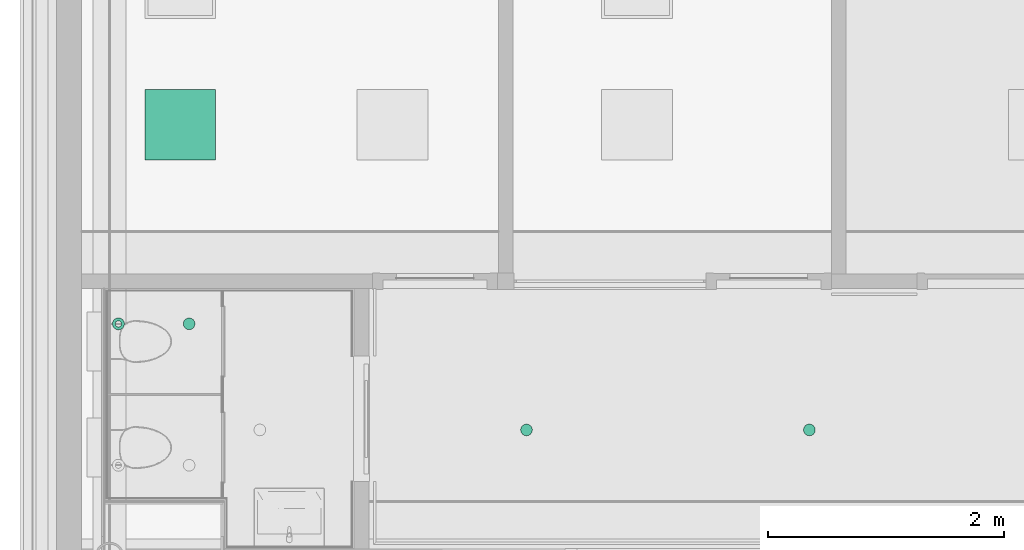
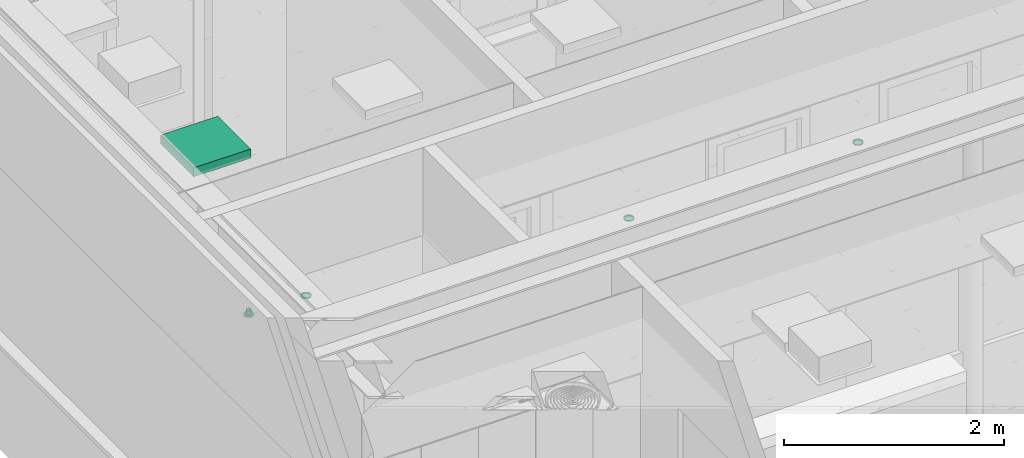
# One storey, part 195 of 347: 5 flow terminals.
"""IFC2X3 building model written with IfcOpenShell, lengths in millimetres."""

from ifc_helpers import new_model, entity, si_unit, converted_unit, derived_unit, money_unit, direction, frame, origin_with_axes, place, context, subcontext, project, spatial, open_shell, faceted_brep, surface_model, source, transform, mapped, type_object, type_shapes, element, save


model = new_model("IFC2X3")

# Units and contexts
model_context = context("Model", 3, precision=0.01, world=origin_with_axes(), true_north=direction((0.0, 1.0)))
plan_context = context("Plan", 3, precision=0.01, world=origin_with_axes(), true_north=direction((0.0, 1.0)))
body_context = subcontext(model_context, "Body", "Model", "MODEL_VIEW")
ifc_project = project(units=[si_unit("LENGTHUNIT", "METRE", prefix="MILLI"), si_unit("AREAUNIT", "SQUARE_METRE"), si_unit("VOLUMEUNIT", "CUBIC_METRE"), converted_unit("PLANEANGLEUNIT", "DEGREE", entity("IfcPlaneAngleMeasure", 0.0174532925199), si_unit("PLANEANGLEUNIT", "RADIAN"), dimensions=[0, 0, 0, 0, 0, 0, 0]), money_unit("EUR"), converted_unit("TIMEUNIT", "Year", entity("IfcTimeMeasure", 31556926.0), si_unit("TIMEUNIT", "SECOND"), dimensions=[0, 0, 1, 0, 0, 0, 0]), si_unit("MASSUNIT", "GRAM", prefix="KILO"), si_unit("THERMODYNAMICTEMPERATUREUNIT", "DEGREE_CELSIUS"), si_unit("LUMINOUSINTENSITYUNIT", "LUMEN"), si_unit("ENERGYUNIT", "JOULE", prefix="MEGA"), derived_unit("THERMALCONDUCTANCEUNIT", [(si_unit("POWERUNIT", "WATT"), 1), (si_unit("LENGTHUNIT", "METRE"), -1), (si_unit("THERMODYNAMICTEMPERATUREUNIT", "KELVIN"), -1)]), derived_unit("SPECIFICHEATCAPACITYUNIT", [(si_unit("ENERGYUNIT", "JOULE"), 1), (si_unit("MASSUNIT", "GRAM", prefix="KILO"), -1), (si_unit("THERMODYNAMICTEMPERATUREUNIT", "KELVIN"), -1)]), derived_unit("MASSDENSITYUNIT", [(si_unit("MASSUNIT", "GRAM", prefix="KILO"), 1), (si_unit("VOLUMEUNIT", "CUBIC_METRE"), -1)])], contexts=[model_context, plan_context])

# Site, building, storey
site_placement = place(None, origin_with_axes())
site = spatial("IfcSite", under=ifc_project, at=site_placement, Name="Site", CompositionType="ELEMENT")
building_placement = place(site_placement, origin_with_axes())
building = spatial("IfcBuilding", under=site, at=building_placement, Name="Naam gebouw", CompositionType="ELEMENT")
storey_placement = place(building_placement, origin_with_axes())
storey = spatial("IfcBuildingStorey", under=building, at=storey_placement, Name="begane grond", CompositionType="ELEMENT", Elevation=0.0)

# Flow terminals
lamp_type_1 = type_object("IfcLampType", Name="Spot plafond 01 25", PredefinedType="NOTDEFINED")
shared_shape_1 = source(origin_with_axes(), body_context, "Body", "SurfaceModel", [
    faceted_brep([(50.0, 0.0, -10.0), (46.1939766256, 19.1341716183, -10.0), (46.1939766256, 19.1341716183, 0.0), (50.0, 0.0, 0.0), (46.1939766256, -19.1341716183, -10.0), (35.3553390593, -35.3553390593, -10.0), (19.1341716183, -46.1939766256, -10.0), (0.0, -50.0, -10.0), (-19.1341716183, -46.1939766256, -10.0), (-35.3553390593, -35.3553390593, -10.0), (-46.1939766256, -19.1341716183, -10.0), (-50.0, 0.0, -10.0), (-46.1939766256, 19.1341716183, -10.0), (-35.3553390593, 35.3553390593, -10.0), (-19.1341716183, 46.1939766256, -10.0), (0.0, 50.0, -10.0), (19.1341716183, 46.1939766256, -10.0), (35.3553390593, 35.3553390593, -10.0), (40.0, 0.0, -10.0), (36.9551813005, 15.3073372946, -10.0), (28.2842712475, 28.2842712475, -10.0), (15.3073372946, 36.9551813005, -10.0), (0.0, 40.0, -10.0), (-15.3073372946, 36.9551813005, -10.0), (-28.2842712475, 28.2842712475, -10.0), (-36.9551813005, 15.3073372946, -10.0), (-40.0, 0.0, -10.0), (-36.9551813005, -15.3073372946, -10.0), (-28.2842712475, -28.2842712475, -10.0), (-15.3073372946, -36.9551813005, -10.0), (0.0, -40.0, -10.0), (15.3073372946, -36.9551813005, -10.0), (28.2842712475, -28.2842712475, -10.0), (36.9551813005, -15.3073372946, -10.0), (35.3553390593, 35.3553390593, 0.0), (19.1341716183, 46.1939766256, 0.0), (0.0, 50.0, 0.0), (-19.1341716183, 46.1939766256, 0.0), (-35.3553390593, 35.3553390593, 0.0), (-46.1939766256, 19.1341716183, 0.0), (-50.0, 0.0, 0.0), (-46.1939766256, -19.1341716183, 0.0), (-35.3553390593, -35.3553390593, 0.0), (-19.1341716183, -46.1939766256, 0.0), (0.0, -50.0, 0.0), (19.1341716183, -46.1939766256, 0.0), (35.3553390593, -35.3553390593, 0.0), (46.1939766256, -19.1341716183, 0.0), (40.0, 0.0, 0.0), (36.9551813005, -15.3073372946, 0.0), (28.2842712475, -28.2842712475, 0.0), (15.3073372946, -36.9551813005, 0.0), (0.0, -40.0, 0.0), (-15.3073372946, -36.9551813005, 0.0), (-28.2842712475, -28.2842712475, 0.0), (-36.9551813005, -15.3073372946, 0.0), (-40.0, 0.0, 0.0), (-36.9551813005, 15.3073372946, 0.0), (-28.2842712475, 28.2842712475, 0.0), (-15.3073372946, 36.9551813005, 0.0), (0.0, 40.0, 0.0), (15.3073372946, 36.9551813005, 0.0), (28.2842712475, 28.2842712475, 0.0), (36.9551813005, 15.3073372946, 0.0)], [[[0, 1, 2, 3]], [[0, 4, 5, 6, 7, 8, 9, 10, 11, 12, 13, 14, 15, 16, 17, 1], [18, 19, 20, 21, 22, 23, 24, 25, 26, 27, 28, 29, 30, 31, 32, 33]], [[1, 17, 34, 2]], [[3, 2, 34, 35, 36, 37, 38, 39, 40, 41, 42, 43, 44, 45, 46, 47], [48, 49, 50, 51, 52, 53, 54, 55, 56, 57, 58, 59, 60, 61, 62, 63]], [[4, 0, 3, 47]], [[5, 4, 47, 46]], [[6, 5, 46, 45]], [[7, 6, 45, 44]], [[8, 7, 44, 43]], [[9, 8, 43, 42]], [[10, 9, 42, 41]], [[11, 10, 41, 40]], [[12, 11, 40, 39]], [[13, 12, 39, 38]], [[14, 13, 38, 37]], [[15, 14, 37, 36]], [[16, 15, 36, 35]], [[17, 16, 35, 34]], [[19, 18, 48, 63]], [[20, 19, 63, 62]], [[21, 20, 62, 61]], [[22, 21, 61, 60]], [[23, 22, 60, 59]], [[24, 23, 59, 58]], [[25, 24, 58, 57]], [[26, 25, 57, 56]], [[27, 26, 56, 55]], [[28, 27, 55, 54]], [[29, 28, 54, 53]], [[30, 29, 53, 52]], [[31, 30, 52, 51]], [[32, 31, 51, 50]], [[33, 32, 50, 49]], [[18, 33, 49, 48]]]),
    surface_model("IfcShellBasedSurfaceModel", [(40.0, 0.0, -8.9), (36.9551813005, -15.3073372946, -8.9), (28.2842712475, -28.2842712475, -8.9), (15.3073372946, -36.9551813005, -8.9), (0.0, -40.0, -8.9), (-15.3073372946, -36.9551813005, -8.9), (-28.2842712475, -28.2842712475, -8.9), (-36.9551813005, -15.3073372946, -8.9), (-40.0, 0.0, -8.9), (-36.9551813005, 15.3073372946, -8.9), (-28.2842712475, 28.2842712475, -8.9), (-15.3073372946, 36.9551813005, -8.9), (0.0, 40.0, -8.9), (15.3073372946, 36.9551813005, -8.9), (28.2842712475, 28.2842712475, -8.9), (36.9551813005, 15.3073372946, -8.9)], [open_shell([[[0, 1, 2, 3, 4, 5, 6, 7, 8, 9, 10, 11, 12, 13, 14, 15]]])]),
])
type_shapes(lamp_type_1, [shared_shape_1])
for number, where, z_axis, x_axis, name in (
    (1, (11237.5, 13200.0, 3000.0), (0.0, 0.0, 1.0), (1.0, 0.0, 0.0), "63_Lamp-x"),
    (2, (8837.5, 13200.0, 3000.0), (0.0, 0.0, 1.0), (1.0, 0.0, 0.0), "63_Lamp-x"),
    (3, (5975.00002634, 14100.0, 2600.0), (0.0, 0.0, 1.0), (1.0, 0.0, 0.0), "63_Lamp-x"),
):
    element("IfcFlowTerminal", number, at=place(storey_placement, frame(where, z_axis=z_axis, x_axis=x_axis)), inside=storey, type_object=lamp_type_1, Name=name, ObjectType="Lamp", context=body_context, shape_type="MappedRepresentation", body=[
        mapped(shared_shape_1, transform((0.0, 0.0, 0.0))),
    ])
lamp_type_2 = type_object("IfcLampType", Name="TL plafond 25", PredefinedType="NOTDEFINED")
shared_shape_2 = source(origin_with_axes(), body_context, "Body", "SurfaceModel", [
    faceted_brep([(0.0, 0.0, -100.0), (600.0, 0.0, -100.0), (600.0, 0.0, 0.0), (0.0, 0.0, 0.0), (0.0, 600.0, -100.0), (600.0, 600.0, -100.0), (40.0, 40.0, -100.0), (560.0, 40.0, -100.0), (560.0, 560.0, -100.0), (40.0, 560.0, -100.0), (600.0, 600.0, 0.0), (0.0, 600.0, 0.0), (40.0, 40.0, 0.0), (40.0, 560.0, 0.0), (560.0, 560.0, 0.0), (560.0, 40.0, 0.0)], [[[0, 1, 2, 3]], [[0, 4, 5, 1], [6, 7, 8, 9]], [[1, 5, 10, 2]], [[3, 2, 10, 11], [12, 13, 14, 15]], [[4, 0, 3, 11]], [[5, 4, 11, 10]], [[7, 6, 12, 15]], [[8, 7, 15, 14]], [[9, 8, 14, 13]], [[6, 9, 13, 12]]]),
    faceted_brep([(40.0, 40.0, -16.3333333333), (560.0, 40.0, -16.3333333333), (560.0, 40.0, 0.0), (40.0, 40.0, 0.0), (40.0, 560.0, -16.3333333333), (560.0, 560.0, -16.3333333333), (560.0, 560.0, 0.0), (40.0, 560.0, 0.0)], [[[0, 1, 2, 3]], [[0, 4, 5, 1]], [[1, 5, 6, 2]], [[3, 2, 6, 7]], [[4, 0, 3, 7]], [[5, 4, 7, 6]]]),
    surface_model("IfcShellBasedSurfaceModel", [(559.0, 41.0, -100.0), (40.0, 41.0, -100.0), (40.0, 559.0, -100.0), (559.0, 559.0, -100.0)], [open_shell([[[0, 1, 2, 3]]])]),
    faceted_brep([(40.0, 40.0, -100.0), (560.0, 40.0, -100.0), (560.0, 40.0, -60.0), (40.0, 40.0, -60.0), (40.0, 560.0, -100.0), (560.0, 560.0, -100.0), (41.0, 41.0, -100.0), (559.0, 41.0, -100.0), (559.0, 559.0, -100.0), (41.0, 559.0, -100.0), (560.0, 560.0, -60.0), (40.0, 560.0, -60.0), (41.0, 41.0, -60.0), (41.0, 559.0, -60.0), (559.0, 559.0, -60.0), (559.0, 41.0, -60.0)], [[[0, 1, 2, 3]], [[0, 4, 5, 1], [6, 7, 8, 9]], [[1, 5, 10, 2]], [[3, 2, 10, 11], [12, 13, 14, 15]], [[4, 0, 3, 11]], [[5, 4, 11, 10]], [[7, 6, 12, 15]], [[8, 7, 15, 14]], [[9, 8, 14, 13]], [[6, 9, 13, 12]]]),
    faceted_brep([(40.0, 144.0, -48.3333333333), (40.0, 149.740251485, -47.191526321), (560.0, 149.740251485, -47.191526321), (560.0, 144.0, -48.3333333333), (40.0, 138.259748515, -47.191526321), (40.0, 133.393398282, -43.9399350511), (40.0, 130.141807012, -39.0735848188), (40.0, 129.0, -33.3333333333), (40.0, 130.141807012, -27.5930818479), (40.0, 133.393398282, -22.7267316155), (40.0, 138.259748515, -19.4751403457), (40.0, 144.0, -18.3333333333), (40.0, 149.740251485, -19.4751403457), (40.0, 154.606601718, -22.7267316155), (40.0, 157.858192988, -27.5930818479), (40.0, 159.0, -33.3333333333), (40.0, 157.858192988, -39.0735848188), (40.0, 154.606601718, -43.9399350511), (40.0, 144.0, -46.3333333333), (40.0, 148.974884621, -45.343767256), (40.0, 153.192388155, -42.5257214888), (40.0, 156.010433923, -38.3082179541), (40.0, 157.0, -33.3333333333), (40.0, 156.010433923, -28.3584487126), (40.0, 153.192388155, -24.1409451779), (40.0, 148.974884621, -21.3228994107), (40.0, 144.0, -20.3333333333), (40.0, 139.025115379, -21.3228994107), (40.0, 134.807611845, -24.1409451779), (40.0, 131.989566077, -28.3584487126), (40.0, 131.0, -33.3333333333), (40.0, 131.989566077, -38.3082179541), (40.0, 134.807611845, -42.5257214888), (40.0, 139.025115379, -45.343767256), (560.0, 154.606601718, -43.9399350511), (560.0, 157.858192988, -39.0735848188), (560.0, 159.0, -33.3333333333), (560.0, 157.858192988, -27.5930818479), (560.0, 154.606601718, -22.7267316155), (560.0, 149.740251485, -19.4751403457), (560.0, 144.0, -18.3333333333), (560.0, 138.259748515, -19.4751403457), (560.0, 133.393398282, -22.7267316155), (560.0, 130.141807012, -27.5930818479), (560.0, 129.0, -33.3333333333), (560.0, 130.141807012, -39.0735848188), (560.0, 133.393398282, -43.9399350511), (560.0, 138.259748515, -47.191526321), (560.0, 144.0, -46.3333333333), (560.0, 139.025115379, -45.343767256), (560.0, 134.807611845, -42.5257214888), (560.0, 131.989566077, -38.3082179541), (560.0, 131.0, -33.3333333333), (560.0, 131.989566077, -28.3584487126), (560.0, 134.807611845, -24.1409451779), (560.0, 139.025115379, -21.3228994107), (560.0, 144.0, -20.3333333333), (560.0, 148.974884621, -21.3228994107), (560.0, 153.192388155, -24.1409451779), (560.0, 156.010433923, -28.3584487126), (560.0, 157.0, -33.3333333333), (560.0, 156.010433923, -38.3082179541), (560.0, 153.192388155, -42.5257214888), (560.0, 148.974884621, -45.343767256)], [[[0, 1, 2, 3]], [[0, 4, 5, 6, 7, 8, 9, 10, 11, 12, 13, 14, 15, 16, 17, 1], [18, 19, 20, 21, 22, 23, 24, 25, 26, 27, 28, 29, 30, 31, 32, 33]], [[1, 17, 34, 2]], [[3, 2, 34, 35, 36, 37, 38, 39, 40, 41, 42, 43, 44, 45, 46, 47], [48, 49, 50, 51, 52, 53, 54, 55, 56, 57, 58, 59, 60, 61, 62, 63]], [[4, 0, 3, 47]], [[5, 4, 47, 46]], [[6, 5, 46, 45]], [[7, 6, 45, 44]], [[8, 7, 44, 43]], [[9, 8, 43, 42]], [[10, 9, 42, 41]], [[11, 10, 41, 40]], [[12, 11, 40, 39]], [[13, 12, 39, 38]], [[14, 13, 38, 37]], [[15, 14, 37, 36]], [[16, 15, 36, 35]], [[17, 16, 35, 34]], [[19, 18, 48, 63]], [[20, 19, 63, 62]], [[21, 20, 62, 61]], [[22, 21, 61, 60]], [[23, 22, 60, 59]], [[24, 23, 59, 58]], [[25, 24, 58, 57]], [[26, 25, 57, 56]], [[27, 26, 56, 55]], [[28, 27, 55, 54]], [[29, 28, 54, 53]], [[30, 29, 53, 52]], [[31, 30, 52, 51]], [[32, 31, 51, 50]], [[33, 32, 50, 49]], [[18, 33, 49, 48]]]),
    faceted_brep([(40.0, 248.0, -48.3333333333), (40.0, 253.740251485, -47.191526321), (560.0, 253.740251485, -47.191526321), (560.0, 248.0, -48.3333333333), (40.0, 242.259748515, -47.191526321), (40.0, 237.393398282, -43.9399350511), (40.0, 234.141807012, -39.0735848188), (40.0, 233.0, -33.3333333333), (40.0, 234.141807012, -27.5930818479), (40.0, 237.393398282, -22.7267316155), (40.0, 242.259748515, -19.4751403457), (40.0, 248.0, -18.3333333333), (40.0, 253.740251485, -19.4751403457), (40.0, 258.606601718, -22.7267316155), (40.0, 261.858192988, -27.5930818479), (40.0, 263.0, -33.3333333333), (40.0, 261.858192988, -39.0735848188), (40.0, 258.606601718, -43.9399350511), (40.0, 248.0, -46.3333333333), (40.0, 252.974884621, -45.343767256), (40.0, 257.192388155, -42.5257214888), (40.0, 260.010433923, -38.3082179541), (40.0, 261.0, -33.3333333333), (40.0, 260.010433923, -28.3584487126), (40.0, 257.192388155, -24.1409451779), (40.0, 252.974884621, -21.3228994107), (40.0, 248.0, -20.3333333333), (40.0, 243.025115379, -21.3228994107), (40.0, 238.807611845, -24.1409451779), (40.0, 235.989566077, -28.3584487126), (40.0, 235.0, -33.3333333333), (40.0, 235.989566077, -38.3082179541), (40.0, 238.807611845, -42.5257214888), (40.0, 243.025115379, -45.343767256), (560.0, 258.606601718, -43.9399350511), (560.0, 261.858192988, -39.0735848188), (560.0, 263.0, -33.3333333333), (560.0, 261.858192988, -27.5930818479), (560.0, 258.606601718, -22.7267316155), (560.0, 253.740251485, -19.4751403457), (560.0, 248.0, -18.3333333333), (560.0, 242.259748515, -19.4751403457), (560.0, 237.393398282, -22.7267316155), (560.0, 234.141807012, -27.5930818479), (560.0, 233.0, -33.3333333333), (560.0, 234.141807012, -39.0735848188), (560.0, 237.393398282, -43.9399350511), (560.0, 242.259748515, -47.191526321), (560.0, 248.0, -46.3333333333), (560.0, 243.025115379, -45.343767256), (560.0, 238.807611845, -42.5257214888), (560.0, 235.989566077, -38.3082179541), (560.0, 235.0, -33.3333333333), (560.0, 235.989566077, -28.3584487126), (560.0, 238.807611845, -24.1409451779), (560.0, 243.025115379, -21.3228994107), (560.0, 248.0, -20.3333333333), (560.0, 252.974884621, -21.3228994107), (560.0, 257.192388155, -24.1409451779), (560.0, 260.010433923, -28.3584487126), (560.0, 261.0, -33.3333333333), (560.0, 260.010433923, -38.3082179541), (560.0, 257.192388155, -42.5257214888), (560.0, 252.974884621, -45.343767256)], [[[0, 1, 2, 3]], [[0, 4, 5, 6, 7, 8, 9, 10, 11, 12, 13, 14, 15, 16, 17, 1], [18, 19, 20, 21, 22, 23, 24, 25, 26, 27, 28, 29, 30, 31, 32, 33]], [[1, 17, 34, 2]], [[3, 2, 34, 35, 36, 37, 38, 39, 40, 41, 42, 43, 44, 45, 46, 47], [48, 49, 50, 51, 52, 53, 54, 55, 56, 57, 58, 59, 60, 61, 62, 63]], [[4, 0, 3, 47]], [[5, 4, 47, 46]], [[6, 5, 46, 45]], [[7, 6, 45, 44]], [[8, 7, 44, 43]], [[9, 8, 43, 42]], [[10, 9, 42, 41]], [[11, 10, 41, 40]], [[12, 11, 40, 39]], [[13, 12, 39, 38]], [[14, 13, 38, 37]], [[15, 14, 37, 36]], [[16, 15, 36, 35]], [[17, 16, 35, 34]], [[19, 18, 48, 63]], [[20, 19, 63, 62]], [[21, 20, 62, 61]], [[22, 21, 61, 60]], [[23, 22, 60, 59]], [[24, 23, 59, 58]], [[25, 24, 58, 57]], [[26, 25, 57, 56]], [[27, 26, 56, 55]], [[28, 27, 55, 54]], [[29, 28, 54, 53]], [[30, 29, 53, 52]], [[31, 30, 52, 51]], [[32, 31, 51, 50]], [[33, 32, 50, 49]], [[18, 33, 49, 48]]]),
    faceted_brep([(40.0, 352.0, -48.3333333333), (40.0, 357.740251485, -47.191526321), (560.0, 357.740251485, -47.191526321), (560.0, 352.0, -48.3333333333), (40.0, 346.259748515, -47.191526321), (40.0, 341.393398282, -43.9399350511), (40.0, 338.141807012, -39.0735848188), (40.0, 337.0, -33.3333333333), (40.0, 338.141807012, -27.5930818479), (40.0, 341.393398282, -22.7267316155), (40.0, 346.259748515, -19.4751403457), (40.0, 352.0, -18.3333333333), (40.0, 357.740251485, -19.4751403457), (40.0, 362.606601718, -22.7267316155), (40.0, 365.858192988, -27.5930818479), (40.0, 367.0, -33.3333333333), (40.0, 365.858192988, -39.0735848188), (40.0, 362.606601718, -43.9399350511), (40.0, 352.0, -46.3333333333), (40.0, 356.974884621, -45.343767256), (40.0, 361.192388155, -42.5257214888), (40.0, 364.010433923, -38.3082179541), (40.0, 365.0, -33.3333333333), (40.0, 364.010433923, -28.3584487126), (40.0, 361.192388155, -24.1409451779), (40.0, 356.974884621, -21.3228994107), (40.0, 352.0, -20.3333333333), (40.0, 347.025115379, -21.3228994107), (40.0, 342.807611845, -24.1409451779), (40.0, 339.989566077, -28.3584487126), (40.0, 339.0, -33.3333333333), (40.0, 339.989566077, -38.3082179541), (40.0, 342.807611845, -42.5257214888), (40.0, 347.025115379, -45.343767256), (560.0, 362.606601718, -43.9399350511), (560.0, 365.858192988, -39.0735848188), (560.0, 367.0, -33.3333333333), (560.0, 365.858192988, -27.5930818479), (560.0, 362.606601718, -22.7267316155), (560.0, 357.740251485, -19.4751403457), (560.0, 352.0, -18.3333333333), (560.0, 346.259748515, -19.4751403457), (560.0, 341.393398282, -22.7267316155), (560.0, 338.141807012, -27.5930818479), (560.0, 337.0, -33.3333333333), (560.0, 338.141807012, -39.0735848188), (560.0, 341.393398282, -43.9399350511), (560.0, 346.259748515, -47.191526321), (560.0, 352.0, -46.3333333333), (560.0, 347.025115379, -45.343767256), (560.0, 342.807611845, -42.5257214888), (560.0, 339.989566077, -38.3082179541), (560.0, 339.0, -33.3333333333), (560.0, 339.989566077, -28.3584487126), (560.0, 342.807611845, -24.1409451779), (560.0, 347.025115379, -21.3228994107), (560.0, 352.0, -20.3333333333), (560.0, 356.974884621, -21.3228994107), (560.0, 361.192388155, -24.1409451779), (560.0, 364.010433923, -28.3584487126), (560.0, 365.0, -33.3333333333), (560.0, 364.010433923, -38.3082179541), (560.0, 361.192388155, -42.5257214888), (560.0, 356.974884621, -45.343767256)], [[[0, 1, 2, 3]], [[0, 4, 5, 6, 7, 8, 9, 10, 11, 12, 13, 14, 15, 16, 17, 1], [18, 19, 20, 21, 22, 23, 24, 25, 26, 27, 28, 29, 30, 31, 32, 33]], [[1, 17, 34, 2]], [[3, 2, 34, 35, 36, 37, 38, 39, 40, 41, 42, 43, 44, 45, 46, 47], [48, 49, 50, 51, 52, 53, 54, 55, 56, 57, 58, 59, 60, 61, 62, 63]], [[4, 0, 3, 47]], [[5, 4, 47, 46]], [[6, 5, 46, 45]], [[7, 6, 45, 44]], [[8, 7, 44, 43]], [[9, 8, 43, 42]], [[10, 9, 42, 41]], [[11, 10, 41, 40]], [[12, 11, 40, 39]], [[13, 12, 39, 38]], [[14, 13, 38, 37]], [[15, 14, 37, 36]], [[16, 15, 36, 35]], [[17, 16, 35, 34]], [[19, 18, 48, 63]], [[20, 19, 63, 62]], [[21, 20, 62, 61]], [[22, 21, 61, 60]], [[23, 22, 60, 59]], [[24, 23, 59, 58]], [[25, 24, 58, 57]], [[26, 25, 57, 56]], [[27, 26, 56, 55]], [[28, 27, 55, 54]], [[29, 28, 54, 53]], [[30, 29, 53, 52]], [[31, 30, 52, 51]], [[32, 31, 51, 50]], [[33, 32, 50, 49]], [[18, 33, 49, 48]]]),
    faceted_brep([(40.0, 456.0, -48.3333333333), (40.0, 461.740251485, -47.191526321), (560.0, 461.740251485, -47.191526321), (560.0, 456.0, -48.3333333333), (40.0, 450.259748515, -47.191526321), (40.0, 445.393398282, -43.9399350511), (40.0, 442.141807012, -39.0735848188), (40.0, 441.0, -33.3333333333), (40.0, 442.141807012, -27.5930818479), (40.0, 445.393398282, -22.7267316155), (40.0, 450.259748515, -19.4751403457), (40.0, 456.0, -18.3333333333), (40.0, 461.740251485, -19.4751403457), (40.0, 466.606601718, -22.7267316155), (40.0, 469.858192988, -27.5930818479), (40.0, 471.0, -33.3333333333), (40.0, 469.858192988, -39.0735848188), (40.0, 466.606601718, -43.9399350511), (40.0, 456.0, -46.3333333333), (40.0, 460.974884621, -45.343767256), (40.0, 465.192388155, -42.5257214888), (40.0, 468.010433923, -38.3082179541), (40.0, 469.0, -33.3333333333), (40.0, 468.010433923, -28.3584487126), (40.0, 465.192388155, -24.1409451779), (40.0, 460.974884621, -21.3228994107), (40.0, 456.0, -20.3333333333), (40.0, 451.025115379, -21.3228994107), (40.0, 446.807611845, -24.1409451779), (40.0, 443.989566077, -28.3584487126), (40.0, 443.0, -33.3333333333), (40.0, 443.989566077, -38.3082179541), (40.0, 446.807611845, -42.5257214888), (40.0, 451.025115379, -45.343767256), (560.0, 466.606601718, -43.9399350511), (560.0, 469.858192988, -39.0735848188), (560.0, 471.0, -33.3333333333), (560.0, 469.858192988, -27.5930818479), (560.0, 466.606601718, -22.7267316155), (560.0, 461.740251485, -19.4751403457), (560.0, 456.0, -18.3333333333), (560.0, 450.259748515, -19.4751403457), (560.0, 445.393398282, -22.7267316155), (560.0, 442.141807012, -27.5930818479), (560.0, 441.0, -33.3333333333), (560.0, 442.141807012, -39.0735848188), (560.0, 445.393398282, -43.9399350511), (560.0, 450.259748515, -47.191526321), (560.0, 456.0, -46.3333333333), (560.0, 451.025115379, -45.343767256), (560.0, 446.807611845, -42.5257214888), (560.0, 443.989566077, -38.3082179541), (560.0, 443.0, -33.3333333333), (560.0, 443.989566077, -28.3584487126), (560.0, 446.807611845, -24.1409451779), (560.0, 451.025115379, -21.3228994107), (560.0, 456.0, -20.3333333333), (560.0, 460.974884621, -21.3228994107), (560.0, 465.192388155, -24.1409451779), (560.0, 468.010433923, -28.3584487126), (560.0, 469.0, -33.3333333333), (560.0, 468.010433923, -38.3082179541), (560.0, 465.192388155, -42.5257214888), (560.0, 460.974884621, -45.343767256)], [[[0, 1, 2, 3]], [[0, 4, 5, 6, 7, 8, 9, 10, 11, 12, 13, 14, 15, 16, 17, 1], [18, 19, 20, 21, 22, 23, 24, 25, 26, 27, 28, 29, 30, 31, 32, 33]], [[1, 17, 34, 2]], [[3, 2, 34, 35, 36, 37, 38, 39, 40, 41, 42, 43, 44, 45, 46, 47], [48, 49, 50, 51, 52, 53, 54, 55, 56, 57, 58, 59, 60, 61, 62, 63]], [[4, 0, 3, 47]], [[5, 4, 47, 46]], [[6, 5, 46, 45]], [[7, 6, 45, 44]], [[8, 7, 44, 43]], [[9, 8, 43, 42]], [[10, 9, 42, 41]], [[11, 10, 41, 40]], [[12, 11, 40, 39]], [[13, 12, 39, 38]], [[14, 13, 38, 37]], [[15, 14, 37, 36]], [[16, 15, 36, 35]], [[17, 16, 35, 34]], [[19, 18, 48, 63]], [[20, 19, 63, 62]], [[21, 20, 62, 61]], [[22, 21, 61, 60]], [[23, 22, 60, 59]], [[24, 23, 59, 58]], [[25, 24, 58, 57]], [[26, 25, 57, 56]], [[27, 26, 56, 55]], [[28, 27, 55, 54]], [[29, 28, 54, 53]], [[30, 29, 53, 52]], [[31, 30, 52, 51]], [[32, 31, 51, 50]], [[33, 32, 50, 49]], [[18, 33, 49, 48]]]),
])
type_shapes(lamp_type_2, [shared_shape_2])
flow_terminal_1_placement = place(storey_placement, frame((5600.0, 15490.000144, 3295.0), z_axis=(0.0, 0.0, 1.0), x_axis=(1.0, 0.0, 0.0)))
element("IfcFlowTerminal", 4, at=flow_terminal_1_placement, inside=storey, type_object=lamp_type_2, Name="63_Lamp-x", ObjectType="Lamp", context=body_context, shape_type="MappedRepresentation", body=[
    mapped(shared_shape_2, transform((0.0, 0.0, 0.0))),
])
air_terminal_type = type_object("IfcAirTerminalType", Name="Rooster plafond rond 25", PredefinedType="GRILLE")
shared_shape_3 = source(origin_with_axes(), body_context, "Body", "SurfaceModel", [
    faceted_brep([(51.0, 0.0, -5.0), (49.2622171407, 13.1997713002, -5.0), (49.2622171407, 13.1997713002, 0.0), (51.0, 0.0, 0.0), (49.2622171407, -13.1997713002, -5.0), (44.167295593, -25.5, -5.0), (36.0624458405, -36.0624458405, -5.0), (25.5, -44.167295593, -5.0), (13.1997713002, -49.2622171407, -5.0), (0.0, -51.0, -5.0), (-13.1997713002, -49.2622171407, -5.0), (-25.5, -44.167295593, -5.0), (-36.0624458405, -36.0624458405, -5.0), (-44.167295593, -25.5, -5.0), (-49.2622171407, -13.1997713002, -5.0), (-51.0, 0.0, -5.0), (-49.2622171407, 13.1997713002, -5.0), (-44.167295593, 25.5, -5.0), (-36.0624458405, 36.0624458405, -5.0), (-25.5, 44.167295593, -5.0), (-13.1997713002, 49.2622171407, -5.0), (0.0, 51.0, -5.0), (13.1997713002, 49.2622171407, -5.0), (25.5, 44.167295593, -5.0), (36.0624458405, 36.0624458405, -5.0), (44.167295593, 25.5, -5.0), (26.0, 0.0, -5.0), (25.1140714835, 6.72929517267, -5.0), (22.5166604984, 13.0, -5.0), (18.3847763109, 18.3847763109, -5.0), (13.0, 22.5166604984, -5.0), (6.72929517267, 25.1140714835, -5.0), (0.0, 26.0, -5.0), (-6.72929517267, 25.1140714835, -5.0), (-13.0, 22.5166604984, -5.0), (-18.3847763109, 18.3847763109, -5.0), (-22.5166604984, 13.0, -5.0), (-25.1140714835, 6.72929517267, -5.0), (-26.0, 0.0, -5.0), (-25.1140714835, -6.72929517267, -5.0), (-22.5166604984, -13.0, -5.0), (-18.3847763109, -18.3847763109, -5.0), (-13.0, -22.5166604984, -5.0), (-6.72929517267, -25.1140714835, -5.0), (0.0, -26.0, -5.0), (6.72929517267, -25.1140714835, -5.0), (13.0, -22.5166604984, -5.0), (18.3847763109, -18.3847763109, -5.0), (22.5166604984, -13.0, -5.0), (25.1140714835, -6.72929517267, -5.0), (44.167295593, 25.5, 0.0), (36.0624458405, 36.0624458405, 0.0), (25.5, 44.167295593, 0.0), (13.1997713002, 49.2622171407, 0.0), (0.0, 51.0, 0.0), (-13.1997713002, 49.2622171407, 0.0), (-25.5, 44.167295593, 0.0), (-36.0624458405, 36.0624458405, 0.0), (-44.167295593, 25.5, 0.0), (-49.2622171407, 13.1997713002, 0.0), (-51.0, 0.0, 0.0), (-49.2622171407, -13.1997713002, 0.0), (-44.167295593, -25.5, 0.0), (-36.0624458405, -36.0624458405, 0.0), (-25.5, -44.167295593, 0.0), (-13.1997713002, -49.2622171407, 0.0), (0.0, -51.0, 0.0), (13.1997713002, -49.2622171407, 0.0), (25.5, -44.167295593, 0.0), (36.0624458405, -36.0624458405, 0.0), (44.167295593, -25.5, 0.0), (49.2622171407, -13.1997713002, 0.0), (26.0, 0.0, 0.0), (25.1140714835, -6.72929517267, 0.0), (22.5166604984, -13.0, 0.0), (18.3847763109, -18.3847763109, 0.0), (13.0, -22.5166604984, 0.0), (6.72929517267, -25.1140714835, 0.0), (0.0, -26.0, 0.0), (-6.72929517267, -25.1140714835, 0.0), (-13.0, -22.5166604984, 0.0), (-18.3847763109, -18.3847763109, 0.0), (-22.5166604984, -13.0, 0.0), (-25.1140714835, -6.72929517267, 0.0), (-26.0, 0.0, 0.0), (-25.1140714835, 6.72929517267, 0.0), (-22.5166604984, 13.0, 0.0), (-18.3847763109, 18.3847763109, 0.0), (-13.0, 22.5166604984, 0.0), (-6.72929517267, 25.1140714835, 0.0), (0.0, 26.0, 0.0), (6.72929517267, 25.1140714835, 0.0), (13.0, 22.5166604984, 0.0), (18.3847763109, 18.3847763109, 0.0), (22.5166604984, 13.0, 0.0), (25.1140714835, 6.72929517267, 0.0)], [[[0, 1, 2, 3]], [[0, 4, 5, 6, 7, 8, 9, 10, 11, 12, 13, 14, 15, 16, 17, 18, 19, 20, 21, 22, 23, 24, 25, 1], [26, 27, 28, 29, 30, 31, 32, 33, 34, 35, 36, 37, 38, 39, 40, 41, 42, 43, 44, 45, 46, 47, 48, 49]], [[1, 25, 50, 2]], [[3, 2, 50, 51, 52, 53, 54, 55, 56, 57, 58, 59, 60, 61, 62, 63, 64, 65, 66, 67, 68, 69, 70, 71], [72, 73, 74, 75, 76, 77, 78, 79, 80, 81, 82, 83, 84, 85, 86, 87, 88, 89, 90, 91, 92, 93, 94, 95]], [[4, 0, 3, 71]], [[5, 4, 71, 70]], [[6, 5, 70, 69]], [[7, 6, 69, 68]], [[8, 7, 68, 67]], [[9, 8, 67, 66]], [[10, 9, 66, 65]], [[11, 10, 65, 64]], [[12, 11, 64, 63]], [[13, 12, 63, 62]], [[14, 13, 62, 61]], [[15, 14, 61, 60]], [[16, 15, 60, 59]], [[17, 16, 59, 58]], [[18, 17, 58, 57]], [[19, 18, 57, 56]], [[20, 19, 56, 55]], [[21, 20, 55, 54]], [[22, 21, 54, 53]], [[23, 22, 53, 52]], [[24, 23, 52, 51]], [[25, 24, 51, 50]], [[27, 26, 72, 95]], [[28, 27, 95, 94]], [[29, 28, 94, 93]], [[30, 29, 93, 92]], [[31, 30, 92, 91]], [[32, 31, 91, 90]], [[33, 32, 90, 89]], [[34, 33, 89, 88]], [[35, 34, 88, 87]], [[36, 35, 87, 86]], [[37, 36, 86, 85]], [[38, 37, 85, 84]], [[39, 38, 84, 83]], [[40, 39, 83, 82]], [[41, 40, 82, 81]], [[42, 41, 81, 80]], [[43, 42, 80, 79]], [[44, 43, 79, 78]], [[45, 44, 78, 77]], [[46, 45, 77, 76]], [[47, 46, 76, 75]], [[48, 47, 75, 74]], [[49, 48, 74, 73]], [[26, 49, 73, 72]]]),
    surface_model("IfcShellBasedSurfaceModel", [(0.0, -26.0, 0.0), (6.72929517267, -25.1140714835, 0.0), (6.72929517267, -25.1140714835, 50.0), (0.0, -26.0, 50.0), (13.0, -22.5166604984, 0.0), (13.0, -22.5166604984, 50.0), (-6.72929517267, -25.1140714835, 0.0), (-6.72929517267, -25.1140714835, 50.0), (18.3847763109, -18.3847763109, 0.0), (18.3847763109, -18.3847763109, 50.0), (-13.0, -22.5166604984, 0.0), (-13.0, -22.5166604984, 50.0), (22.5166604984, -13.0, 0.0), (22.5166604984, -13.0, 50.0), (-18.3847763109, -18.3847763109, 0.0), (-18.3847763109, -18.3847763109, 50.0), (25.1140714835, -6.72929517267, 0.0), (25.1140714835, -6.72929517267, 50.0), (-22.5166604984, -13.0, 0.0), (-22.5166604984, -13.0, 50.0), (26.0, 0.0, 0.0), (26.0, 0.0, 50.0), (-25.1140714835, -6.72929517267, 0.0), (-25.1140714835, -6.72929517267, 50.0), (25.1140714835, 6.72929517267, 0.0), (25.1140714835, 6.72929517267, 50.0), (-26.0, 0.0, 0.0), (-26.0, 0.0, 50.0), (22.5166604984, 13.0, 0.0), (22.5166604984, 13.0, 50.0), (-25.1140714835, 6.72929517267, 0.0), (-25.1140714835, 6.72929517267, 50.0), (18.3847763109, 18.3847763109, 0.0), (18.3847763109, 18.3847763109, 50.0), (-22.5166604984, 13.0, 0.0), (-22.5166604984, 13.0, 50.0), (13.0, 22.5166604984, 0.0), (13.0, 22.5166604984, 50.0), (-18.3847763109, 18.3847763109, 0.0), (-18.3847763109, 18.3847763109, 50.0), (6.72929517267, 25.1140714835, 0.0), (6.72929517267, 25.1140714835, 50.0), (-13.0, 22.5166604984, 0.0), (-13.0, 22.5166604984, 50.0), (0.0, 26.0, 0.0), (0.0, 26.0, 50.0), (-6.72929517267, 25.1140714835, 0.0), (-6.72929517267, 25.1140714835, 50.0)], [open_shell([[[0, 1, 2, 3]], [[1, 4, 5, 2]], [[6, 0, 3, 7]], [[4, 8, 9, 5]], [[10, 6, 7, 11]], [[8, 12, 13, 9]], [[14, 10, 11, 15]], [[12, 16, 17, 13]], [[18, 14, 15, 19]], [[16, 20, 21, 17]], [[22, 18, 19, 23]], [[20, 24, 25, 21]], [[26, 22, 23, 27]], [[24, 28, 29, 25]], [[30, 26, 27, 31]], [[28, 32, 33, 29]], [[34, 30, 31, 35]], [[32, 36, 37, 33]], [[38, 34, 35, 39]], [[36, 40, 41, 37]], [[42, 38, 39, 43]], [[40, 44, 45, 41]], [[46, 42, 43, 47]], [[44, 46, 47, 45]]])]),
])
type_shapes(air_terminal_type, [shared_shape_3])
flow_terminal_2_placement = place(storey_placement, frame((5375.00002634, 14100.0, 2600.0), z_axis=(0.0, 0.0, 1.0), x_axis=(1.0, 0.0, 0.0)))
element("IfcFlowTerminal", 5, at=flow_terminal_2_placement, inside=storey, type_object=air_terminal_type, Name="57_78 garderobe", context=body_context, shape_type="MappedRepresentation", body=[
    mapped(shared_shape_3, transform((0.0, 0.0, 0.0))),
])

save(model, "model.ifc")
